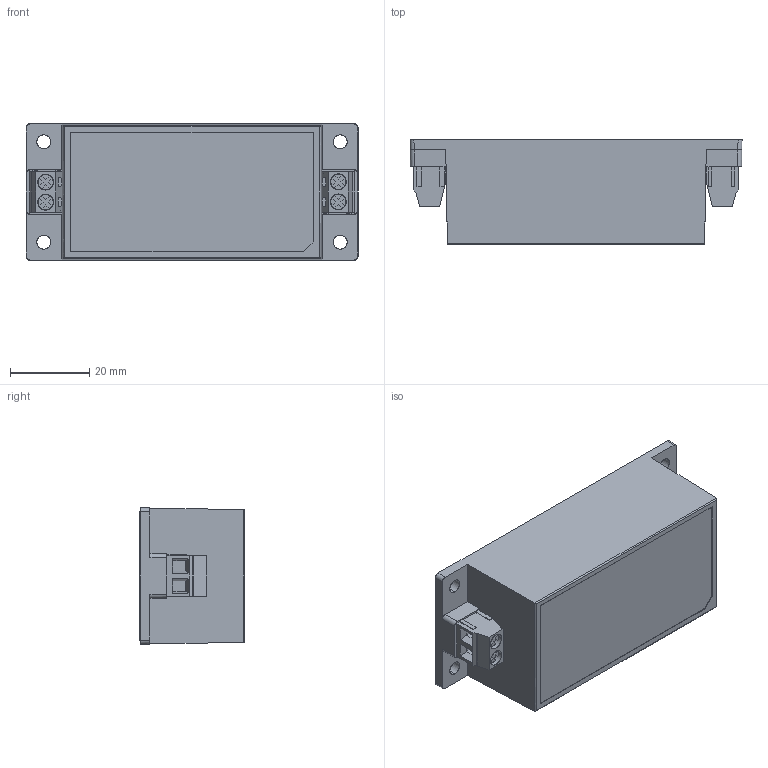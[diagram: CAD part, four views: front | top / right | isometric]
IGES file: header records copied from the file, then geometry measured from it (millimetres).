
Start section: SolidWorks IGES file using analytic representation for surfaces
Global section: file name: Q:\機構資料區\機構件SPEC\SPEC_3D\研六\ECL15US12-S\ECL15US05-S-1050824.IGS; native system: SolidWorks 2008; preprocessor: SolidWorks 2008; author: fangjyi; date: 160824.155714; units: millimetre
Bounding box: 84 x 26.49 x 34.5 mm (x, y, z)
Surface area: 26922.1 mm2 (no closed solid volume)
Topology: 0 solids, 0 shells, 473 faces, 3618 edges, 3618 vertices
Faces by surface type: bspline 422, revolution 51
